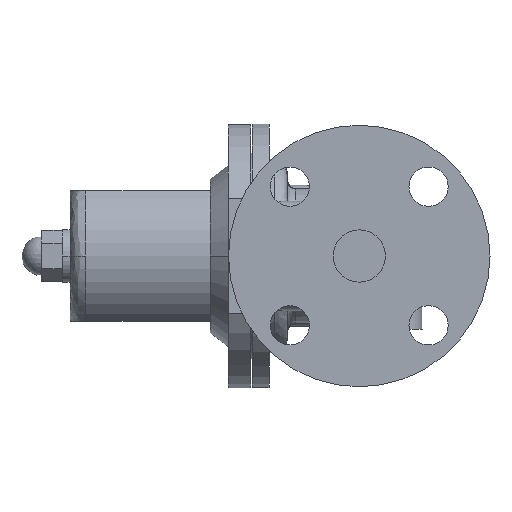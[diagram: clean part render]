
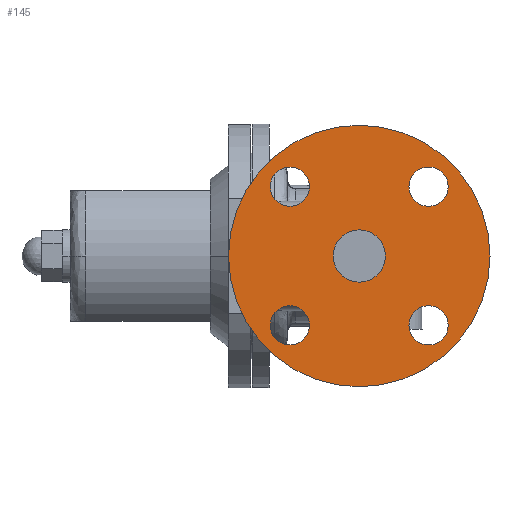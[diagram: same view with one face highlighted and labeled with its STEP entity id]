
A CAD part, left-side view. The second image highlights one B-rep face of the part: STEP entity #145.
In plain terms, the highlighted planar face has unit normal (-1, 0, 0).
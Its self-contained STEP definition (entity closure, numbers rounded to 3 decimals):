
#145=ADVANCED_FACE('',(#1305,#1306,#1307,#1308,#1309,#1310),#1304,.F.);
#1304=PLANE('',#4322);
#1305=FACE_OUTER_BOUND('',#4323,.T.);
#1306=FACE_BOUND('',#4324,.T.);
#1307=FACE_BOUND('',#4325,.T.);
#1308=FACE_BOUND('',#4326,.T.);
#1309=FACE_BOUND('',#4327,.T.);
#1310=FACE_BOUND('',#4328,.T.);
#4319=CARTESIAN_POINT('',(-80.,-60.,-96.603));
#4320=DIRECTION('',(1.,0.,0.));
#4321=DIRECTION('',(0.,1.,0.));
#4322=AXIS2_PLACEMENT_3D('',#4319,#4320,#4321);
#4323=EDGE_LOOP('',(#5580,#5581));
#4324=EDGE_LOOP('',(#5582,#5583));
#4325=EDGE_LOOP('',(#5584,#5585));
#4326=EDGE_LOOP('',(#5586,#5587));
#4327=EDGE_LOOP('',(#5588,#5589));
#4328=EDGE_LOOP('',(#5590,#5591));
#5580=ORIENTED_EDGE('',*,*,#6390,.T.);
#5581=ORIENTED_EDGE('',*,*,#6391,.T.);
#5582=ORIENTED_EDGE('',*,*,#6392,.F.);
#5583=ORIENTED_EDGE('',*,*,#6393,.F.);
#5584=ORIENTED_EDGE('',*,*,#6394,.F.);
#5585=ORIENTED_EDGE('',*,*,#6395,.F.);
#5586=ORIENTED_EDGE('',*,*,#6396,.F.);
#5587=ORIENTED_EDGE('',*,*,#6397,.F.);
#5588=ORIENTED_EDGE('',*,*,#6398,.F.);
#5589=ORIENTED_EDGE('',*,*,#6399,.F.);
#5590=ORIENTED_EDGE('',*,*,#6400,.F.);
#5591=ORIENTED_EDGE('',*,*,#6401,.F.);
#6390=EDGE_CURVE('',#8914,#8915,#8916,.T.);
#6391=EDGE_CURVE('',#8915,#8914,#8922,.T.);
#6392=EDGE_CURVE('',#8928,#8929,#8930,.T.);
#6393=EDGE_CURVE('',#8929,#8928,#8936,.T.);
#6394=EDGE_CURVE('',#8942,#8943,#8944,.T.);
#6395=EDGE_CURVE('',#8943,#8942,#8950,.T.);
#6396=EDGE_CURVE('',#8956,#8957,#8958,.T.);
#6397=EDGE_CURVE('',#8957,#8956,#8964,.T.);
#6398=EDGE_CURVE('',#8970,#8971,#8972,.T.);
#6399=EDGE_CURVE('',#8971,#8970,#8978,.T.);
#6400=EDGE_CURVE('',#8984,#8985,#8986,.T.);
#6401=EDGE_CURVE('',#8985,#8984,#8992,.T.);
#8914=VERTEX_POINT('',#12036);
#8915=VERTEX_POINT('',#12037);
#8916=CIRCLE('',#12041,50.);
#8922=CIRCLE('',#12045,50.);
#8928=VERTEX_POINT('',#12046);
#8929=VERTEX_POINT('',#12047);
#8930=CIRCLE('',#12051,7.5);
#8936=CIRCLE('',#12055,7.5);
#8942=VERTEX_POINT('',#12056);
#8943=VERTEX_POINT('',#12057);
#8944=CIRCLE('',#12061,7.5);
#8950=CIRCLE('',#12065,7.5);
#8956=VERTEX_POINT('',#12066);
#8957=VERTEX_POINT('',#12067);
#8958=CIRCLE('',#12071,7.5);
#8964=CIRCLE('',#12075,7.5);
#8970=VERTEX_POINT('',#12076);
#8971=VERTEX_POINT('',#12077);
#8972=CIRCLE('',#12081,7.5);
#8978=CIRCLE('',#12085,7.5);
#8984=VERTEX_POINT('',#12086);
#8985=VERTEX_POINT('',#12087);
#8986=CIRCLE('',#12091,10.);
#8992=CIRCLE('',#12095,10.);
#12036=CARTESIAN_POINT('',(-80.,-50.,0.));
#12037=CARTESIAN_POINT('',(-80.,50.,0.));
#12038=CARTESIAN_POINT('',(-80.,0.,0.));
#12039=DIRECTION('',(-1.,0.,0.));
#12040=DIRECTION('',(0.,-1.,0.));
#12041=AXIS2_PLACEMENT_3D('',#12038,#12039,#12040);
#12042=CARTESIAN_POINT('',(-80.,0.,0.));
#12043=DIRECTION('',(-1.,0.,0.));
#12044=DIRECTION('',(0.,-1.,0.));
#12045=AXIS2_PLACEMENT_3D('',#12042,#12043,#12044);
#12046=CARTESIAN_POINT('',(-80.,-19.017,-26.517));
#12047=CARTESIAN_POINT('',(-80.,-34.017,-26.517));
#12048=CARTESIAN_POINT('',(-80.,-26.517,-26.517));
#12049=DIRECTION('',(-1.,0.,0.));
#12050=DIRECTION('',(0.,-1.,0.));
#12051=AXIS2_PLACEMENT_3D('',#12048,#12049,#12050);
#12052=CARTESIAN_POINT('',(-80.,-26.517,-26.517));
#12053=DIRECTION('',(-1.,0.,0.));
#12054=DIRECTION('',(0.,-1.,0.));
#12055=AXIS2_PLACEMENT_3D('',#12052,#12053,#12054);
#12056=CARTESIAN_POINT('',(-80.,-19.017,26.517));
#12057=CARTESIAN_POINT('',(-80.,-34.017,26.517));
#12058=CARTESIAN_POINT('',(-80.,-26.517,26.517));
#12059=DIRECTION('',(-1.,0.,0.));
#12060=DIRECTION('',(0.,-1.,0.));
#12061=AXIS2_PLACEMENT_3D('',#12058,#12059,#12060);
#12062=CARTESIAN_POINT('',(-80.,-26.517,26.517));
#12063=DIRECTION('',(-1.,0.,0.));
#12064=DIRECTION('',(0.,-1.,0.));
#12065=AXIS2_PLACEMENT_3D('',#12062,#12063,#12064);
#12066=CARTESIAN_POINT('',(-80.,26.517,19.017));
#12067=CARTESIAN_POINT('',(-80.,26.517,34.017));
#12068=CARTESIAN_POINT('',(-80.,26.517,26.517));
#12069=DIRECTION('',(-1.,0.,0.));
#12070=DIRECTION('',(0.,0.,1.));
#12071=AXIS2_PLACEMENT_3D('',#12068,#12069,#12070);
#12072=CARTESIAN_POINT('',(-80.,26.517,26.517));
#12073=DIRECTION('',(-1.,0.,0.));
#12074=DIRECTION('',(0.,0.,1.));
#12075=AXIS2_PLACEMENT_3D('',#12072,#12073,#12074);
#12076=CARTESIAN_POINT('',(-80.,26.517,-34.017));
#12077=CARTESIAN_POINT('',(-80.,26.517,-19.017));
#12078=CARTESIAN_POINT('',(-80.,26.517,-26.517));
#12079=DIRECTION('',(-1.,0.,0.));
#12080=DIRECTION('',(0.,0.,1.));
#12081=AXIS2_PLACEMENT_3D('',#12078,#12079,#12080);
#12082=CARTESIAN_POINT('',(-80.,26.517,-26.517));
#12083=DIRECTION('',(-1.,0.,0.));
#12084=DIRECTION('',(0.,0.,1.));
#12085=AXIS2_PLACEMENT_3D('',#12082,#12083,#12084);
#12086=CARTESIAN_POINT('',(-80.,0.,-10.));
#12087=CARTESIAN_POINT('',(-80.,0.,10.));
#12088=CARTESIAN_POINT('',(-80.,0.,0.));
#12089=DIRECTION('',(-1.,0.,0.));
#12090=DIRECTION('',(0.,0.,1.));
#12091=AXIS2_PLACEMENT_3D('',#12088,#12089,#12090);
#12092=CARTESIAN_POINT('',(-80.,0.,0.));
#12093=DIRECTION('',(-1.,0.,0.));
#12094=DIRECTION('',(0.,0.,1.));
#12095=AXIS2_PLACEMENT_3D('',#12092,#12093,#12094);
